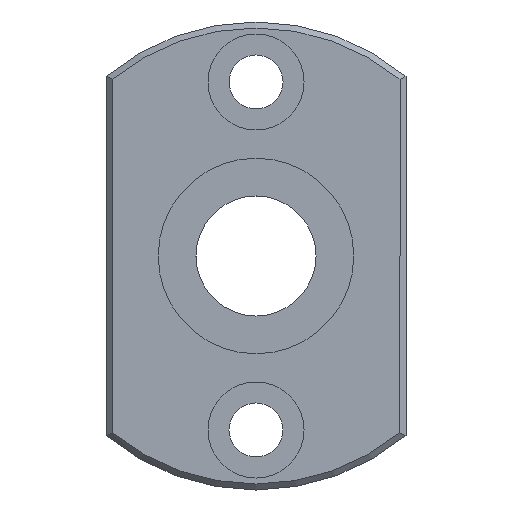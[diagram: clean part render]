
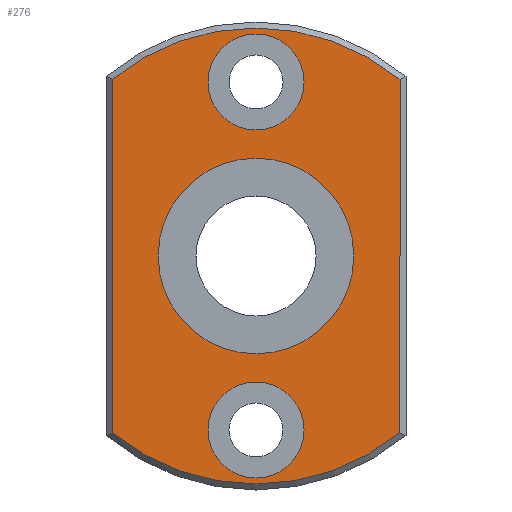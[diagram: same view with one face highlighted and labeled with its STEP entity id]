
A CAD part, left-side view. The second image highlights one B-rep face of the part: STEP entity #276.
In plain terms, the highlighted planar face has unit normal (-1, 0, 0).
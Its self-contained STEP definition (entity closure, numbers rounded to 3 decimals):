
#59=CARTESIAN_POINT('',(0.0,12.,-14.731));
#60=VERTEX_POINT('',#59);
#68=CARTESIAN_POINT('',(0.0,12.,14.731));
#69=VERTEX_POINT('',#68);
#70=CARTESIAN_POINT('',(0.0,12.,-14.731));
#71=DIRECTION('',(0.0,0.0,1.0));
#72=VECTOR('',#71,29.462);
#73=LINE('',#70,#72);
#74=EDGE_CURVE('',#60,#69,#73,.T.);
#101=CARTESIAN_POINT('',(0.0,-12.,14.731));
#102=VERTEX_POINT('',#101);
#103=CARTESIAN_POINT('',(0.0,0.0,0.0));
#104=DIRECTION('',(1.0,0.0,0.0));
#105=DIRECTION('',(0.0,0.0,1.0));
#106=AXIS2_PLACEMENT_3D('',#103,#104,#105);
#107=CIRCLE('',#106,19.0);
#108=EDGE_CURVE('',#69,#102,#107,.T.);
#134=CARTESIAN_POINT('',(0.0,-12.,-14.731));
#135=VERTEX_POINT('',#134);
#136=CARTESIAN_POINT('',(0.0,-12.,14.731));
#137=DIRECTION('',(0.0,0.0,-1.0));
#138=VECTOR('',#137,29.462);
#139=LINE('',#136,#138);
#140=EDGE_CURVE('',#102,#135,#139,.T.);
#165=CARTESIAN_POINT('',(0.0,0.0,0.0));
#166=DIRECTION('',(1.0,0.0,0.0));
#167=DIRECTION('',(0.0,0.0,-1.0));
#168=AXIS2_PLACEMENT_3D('',#165,#166,#167);
#169=CIRCLE('',#168,19.0);
#170=EDGE_CURVE('',#135,#60,#169,.T.);
#232=CARTESIAN_POINT('',(0.0,0.0,8.825));
#233=DIRECTION('',(-1.0,0.0,0.0));
#234=DIRECTION('',(0.0,0.0,1.0));
#235=AXIS2_PLACEMENT_3D('',#232,#233,#234);
#236=PLANE('',#235);
#237=ORIENTED_EDGE('',*,*,#74,.F.);
#238=ORIENTED_EDGE('',*,*,#170,.F.);
#239=ORIENTED_EDGE('',*,*,#140,.F.);
#240=ORIENTED_EDGE('',*,*,#108,.F.);
#241=EDGE_LOOP('',(#237,#238,#239,#240));
#242=FACE_OUTER_BOUND('',#241,.T.);
#243=CARTESIAN_POINT('',(0.0,0.0,8.15));
#244=VERTEX_POINT('',#243);
#245=CARTESIAN_POINT('',(0.0,0.0,0.0));
#246=DIRECTION('',(-1.0,0.0,0.0));
#247=DIRECTION('',(0.0,0.0,1.0));
#248=AXIS2_PLACEMENT_3D('',#245,#246,#247);
#249=CIRCLE('',#248,8.15);
#250=EDGE_CURVE('',#244,#244,#249,.T.);
#251=ORIENTED_EDGE('',*,*,#250,.F.);
#252=EDGE_LOOP('',(#251));
#253=FACE_BOUND('',#252,.T.);
#254=CARTESIAN_POINT('',(0.0,4.,-14.5));
#255=VERTEX_POINT('',#254);
#256=CARTESIAN_POINT('',(0.0,0.,-14.5));
#257=DIRECTION('',(1.0,0.0,0.0));
#258=DIRECTION('',(0.0,1.0,0.0));
#259=AXIS2_PLACEMENT_3D('',#256,#257,#258);
#260=CIRCLE('',#259,4.0);
#261=EDGE_CURVE('',#255,#255,#260,.T.);
#262=ORIENTED_EDGE('',*,*,#261,.T.);
#263=EDGE_LOOP('',(#262));
#264=FACE_BOUND('',#263,.T.);
#265=CARTESIAN_POINT('',(0.0,4.,14.5));
#266=VERTEX_POINT('',#265);
#267=CARTESIAN_POINT('',(0.0,0.,14.5));
#268=DIRECTION('',(1.0,0.0,0.0));
#269=DIRECTION('',(0.0,1.0,0.0));
#270=AXIS2_PLACEMENT_3D('',#267,#268,#269);
#271=CIRCLE('',#270,4.0);
#272=EDGE_CURVE('',#266,#266,#271,.T.);
#273=ORIENTED_EDGE('',*,*,#272,.T.);
#274=EDGE_LOOP('',(#273));
#275=FACE_BOUND('',#274,.T.);
#276=ADVANCED_FACE('',(#242,#253,#264,#275),#236,.T.);
